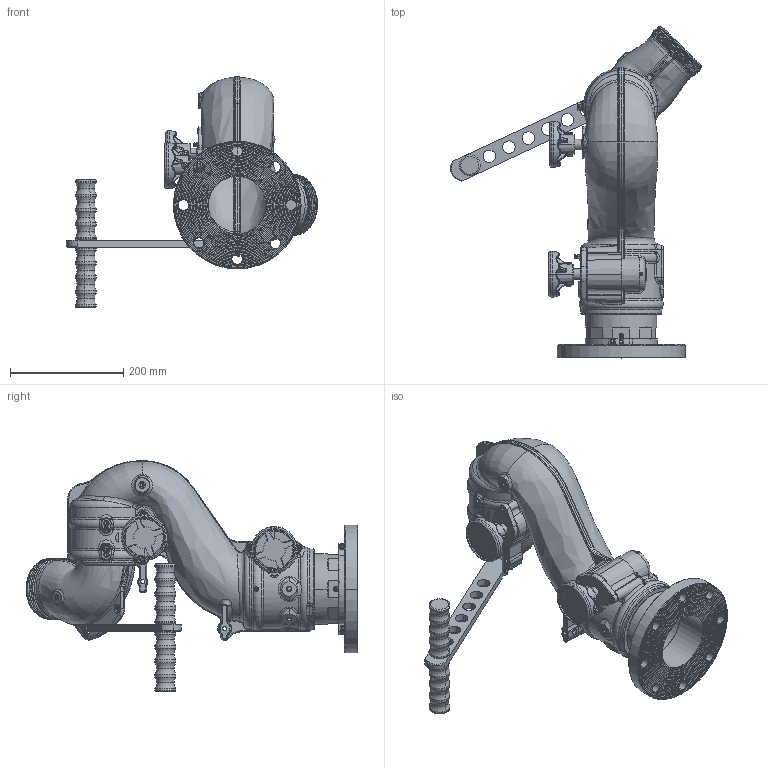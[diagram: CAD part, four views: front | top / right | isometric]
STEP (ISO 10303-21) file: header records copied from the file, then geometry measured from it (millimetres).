
FILE_DESCRIPTION (( 'STEP AP203' ), '1' );
FILE_NAME ('Y5-T21A_45_Up.STEP', '2014-07-03T16:47:08', ( '' ), ( '' ), 'SwSTEP 2.0', 'SolidWorks 2014', '' );
FILE_SCHEMA (( 'CONFIG_CONTROL_DESIGN' ));
Products named in the file (1): Y5-T21A_45_Up
Bounding box: 444.32 x 587.2 x 408.69 mm (x, y, z)
Surface area: 733445.4 mm2 (no closed solid volume)
Topology: 0 solids, 62 shells, 2058 faces, 6050 edges, 3888 vertices
Faces by surface type: bspline 517, torus 470, plane 365, cylinder 357, cone 303, sphere 46
Entity records: 156726 total; most frequent: CARTESIAN_POINT 107556, ORIENTED_EDGE 10398, DIRECTION 9398, EDGE_CURVE 6035, AXIS2_PLACEMENT_3D 3971, VERTEX_POINT 3885, CIRCLE 2429, EDGE_LOOP 2183
